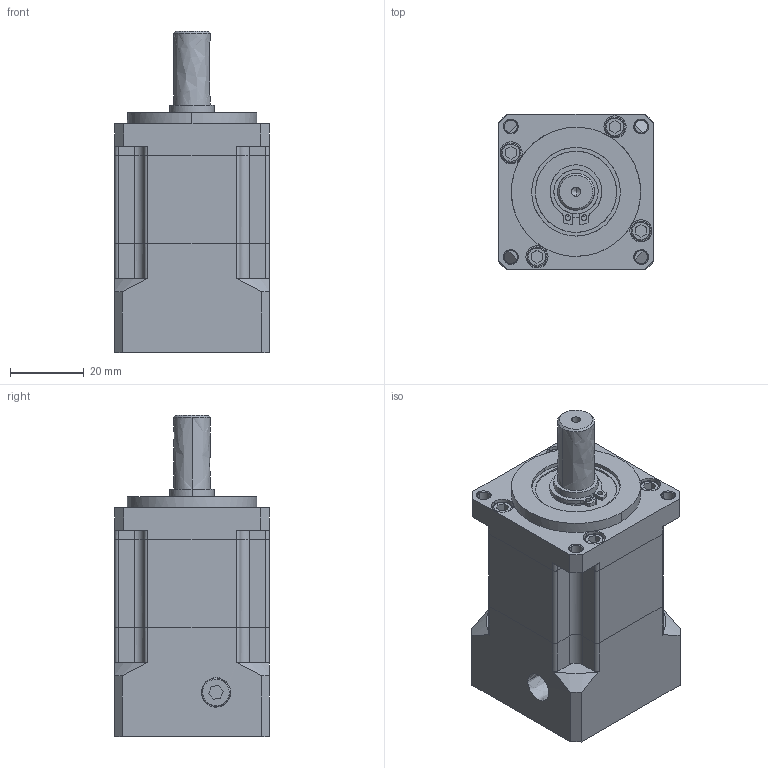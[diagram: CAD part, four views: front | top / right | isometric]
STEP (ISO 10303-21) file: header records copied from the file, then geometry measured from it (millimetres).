
FILE_DESCRIPTION (( 'STEP AP214' ), '1' );
FILE_NAME ('42SPX-(16-70)(三协).STEP', '2021-12-04T03:01:22', ( '微软用户' ), ( '微软中国' ), 'SwSTEP 2.0', 'SolidWorks 2020', '' );
FILE_SCHEMA (( 'AUTOMOTIVE_DESIGN' ));
Length unit declared in the file: millimetre
Products named in the file (9): M4内六角螺丝头 - 副本.igs; ABF42-NN.igs; SS输入轴.igs; PS42-L2MB.igs; ps42綴楊擘M4怢湛.igs; M3囀鞠褒蹟佪芛.igs; 42SPX-(16-70)(三协); ABF42齿圈-N2.igs; 6901RS.igs
Assembly tree (12 placements, depth 3):
  42SPX-(16-70)(三协)
    PS42-L2MB.igs
      ABF42齿圈-N2.igs
      ABF42-NN.igs
      ps42綴楊擘M4怢湛.igs
      6901RS.igs
      SS输入轴.igs
      M3囀鞠褒蹟佪芛.igs  x4
      M4内六角螺丝头 - 副本.igs  x2
Bounding box: 42 x 42 x 87.1 mm (x, y, z)
Volume: 55671.7 mm3; surface area: 35871.3 mm2
Topology: 10 solids, 22 shells, 461 faces, 1149 edges, 747 vertices
Faces by surface type: bspline 461
Entity records: 17296 total; most frequent: CARTESIAN_POINT 10767, ORIENTED_EDGE 2006, EDGE_CURVE 1027, B_SPLINE_CURVE_WITH_KNOTS 755, VERTEX_POINT 675, EDGE_LOOP 494, FACE_OUTER_BOUND 409, ADVANCED_FACE 409
